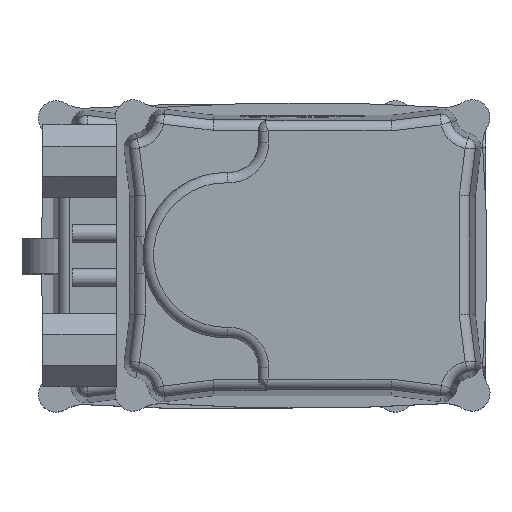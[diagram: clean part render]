
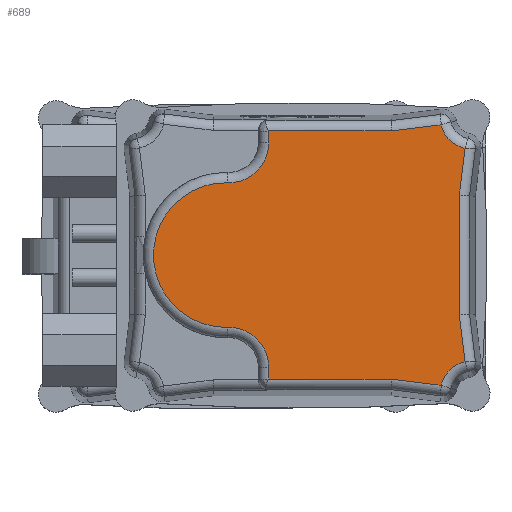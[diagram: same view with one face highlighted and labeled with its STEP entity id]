
A CAD part, top view. The second image highlights one B-rep face of the part: STEP entity #689.
In plain terms, the highlighted planar face has unit normal (0, 0, 1).
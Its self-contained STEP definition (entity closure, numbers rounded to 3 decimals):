
#689 = ADVANCED_FACE( '', ( #1888 ), #1889, .T. );
#1888 = FACE_OUTER_BOUND( '', #3788, .T. );
#1889 = PLANE( '', #3789 );
#3788 = EDGE_LOOP( '', ( #9677, #9678, #9679, #9680, #9681, #9682, #9683, #9684, #9685, #9686, #9687, #9688, #9689, #9690, #9691, #9692 ) );
#3789 = AXIS2_PLACEMENT_3D( '', #9693, #9694, #9695 );
#9677 = ORIENTED_EDGE( '', *, *, #15204, .T. );
#9678 = ORIENTED_EDGE( '', *, *, #15205, .T. );
#9679 = ORIENTED_EDGE( '', *, *, #15206, .T. );
#9680 = ORIENTED_EDGE( '', *, *, #15207, .T. );
#9681 = ORIENTED_EDGE( '', *, *, #15208, .T. );
#9682 = ORIENTED_EDGE( '', *, *, #15209, .T. );
#9683 = ORIENTED_EDGE( '', *, *, #15210, .T. );
#9684 = ORIENTED_EDGE( '', *, *, #15211, .T. );
#9685 = ORIENTED_EDGE( '', *, *, #15212, .T. );
#9686 = ORIENTED_EDGE( '', *, *, #15213, .T. );
#9687 = ORIENTED_EDGE( '', *, *, #15214, .T. );
#9688 = ORIENTED_EDGE( '', *, *, #15215, .T. );
#9689 = ORIENTED_EDGE( '', *, *, #15216, .T. );
#9690 = ORIENTED_EDGE( '', *, *, #15112, .T. );
#9691 = ORIENTED_EDGE( '', *, *, #15217, .T. );
#9692 = ORIENTED_EDGE( '', *, *, #15218, .T. );
#9693 = CARTESIAN_POINT( '', ( 47.227, -44.578, 84. ) );
#9694 = DIRECTION( '', ( 0., 0., 1. ) );
#9695 = DIRECTION( '', ( 1., 0., 0. ) );
#15112 = EDGE_CURVE( '', #17157, #17162, #17164, .T. );
#15204 = EDGE_CURVE( '', #17323, #17324, #17325, .T. );
#15205 = EDGE_CURVE( '', #17324, #17326, #17327, .T. );
#15206 = EDGE_CURVE( '', #17326, #17328, #17329, .F. );
#15207 = EDGE_CURVE( '', #17328, #17330, #17331, .T. );
#15208 = EDGE_CURVE( '', #17330, #17332, #17333, .T. );
#15209 = EDGE_CURVE( '', #17332, #17334, #17335, .T. );
#15210 = EDGE_CURVE( '', #17334, #17336, #17337, .T. );
#15211 = EDGE_CURVE( '', #17336, #17338, #17339, .F. );
#15212 = EDGE_CURVE( '', #17338, #17340, #17341, .T. );
#15213 = EDGE_CURVE( '', #17340, #17342, #17343, .F. );
#15214 = EDGE_CURVE( '', #17342, #17344, #17345, .T. );
#15215 = EDGE_CURVE( '', #17344, #17346, #17347, .T. );
#15216 = EDGE_CURVE( '', #17346, #17157, #17348, .T. );
#15217 = EDGE_CURVE( '', #17162, #17349, #17350, .F. );
#15218 = EDGE_CURVE( '', #17349, #17323, #17351, .T. );
#17157 = VERTEX_POINT( '', #20290 );
#17162 = VERTEX_POINT( '', #20296 );
#17164 = LINE( '', #20319, #20320 );
#17323 = VERTEX_POINT( '', #20758 );
#17324 = VERTEX_POINT( '', #20759 );
#17325 = LINE( '', #20760, #20761 );
#17326 = VERTEX_POINT( '', #20762 );
#17327 = LINE( '', #20763, #20764 );
#17328 = VERTEX_POINT( '', #20765 );
#17329 = CIRCLE( '', #20766, 10.907 );
#17330 = VERTEX_POINT( '', #20767 );
#17331 = LINE( '', #20768, #20769 );
#17332 = VERTEX_POINT( '', #20770 );
#17333 = LINE( '', #20771, #20772 );
#17334 = VERTEX_POINT( '', #20773 );
#17335 = CIRCLE( '', #20774, 0.5 );
#17336 = VERTEX_POINT( '', #20775 );
#17337 = LINE( '', #20776, #20777 );
#17338 = VERTEX_POINT( '', #20778 );
#17339 = CIRCLE( '', #20779, 13.5 );
#17340 = VERTEX_POINT( '', #20780 );
#17341 = CIRCLE( '', #20781, 24.5 );
#17342 = VERTEX_POINT( '', #20782 );
#17343 = CIRCLE( '', #20783, 13.5 );
#17344 = VERTEX_POINT( '', #20784 );
#17345 = LINE( '', #20785, #20786 );
#17346 = VERTEX_POINT( '', #20787 );
#17347 = CIRCLE( '', #20788, 0.5 );
#17348 = LINE( '', #20789, #20790 );
#17349 = VERTEX_POINT( '', #20791 );
#17350 = CIRCLE( '', #20792, 10.907 );
#17351 = LINE( '', #20793, #20794 );
#20290 = CARTESIAN_POINT( '', ( -30.331, 42.093, 84. ) );
#20296 = CARTESIAN_POINT( '', ( -46.913, 44.129, 84. ) );
#20319 = CARTESIAN_POINT( '', ( 56.559, 31.425, 84. ) );
#20320 = VECTOR( '', #28103, 1000. );
#20758 = CARTESIAN_POINT( '', ( -53.093, 20.331, 84. ) );
#20759 = CARTESIAN_POINT( '', ( -53.093, -20.331, 84. ) );
#20760 = CARTESIAN_POINT( '', ( -53.093, -44.578, 84. ) );
#20761 = VECTOR( '', #28178, 1000. );
#20762 = CARTESIAN_POINT( '', ( -55.033, -36.126, 84. ) );
#20763 = CARTESIAN_POINT( '', ( -54.536, -32.083, 84. ) );
#20764 = VECTOR( '', #28179, 1000. );
#20765 = CARTESIAN_POINT( '', ( -46.913, -44.129, 84. ) );
#20766 = AXIS2_PLACEMENT_3D( '', #28180, #28181, #28182 );
#20767 = CARTESIAN_POINT( '', ( -30.331, -42.093, 84. ) );
#20768 = CARTESIAN_POINT( '', ( 45.775, -32.749, 84. ) );
#20769 = VECTOR( '', #28183, 1000. );
#20770 = CARTESIAN_POINT( '', ( 11.491, -42.093, 84. ) );
#20771 = CARTESIAN_POINT( '', ( 47.227, -42.093, 84. ) );
#20772 = VECTOR( '', #28184, 1000. );
#20773 = CARTESIAN_POINT( '', ( 11.5, -42., 84. ) );
#20774 = AXIS2_PLACEMENT_3D( '', #28185, #28186, #28187 );
#20775 = CARTESIAN_POINT( '', ( 11.5, -37.987, 84. ) );
#20776 = CARTESIAN_POINT( '', ( 11.5, -44.578, 84. ) );
#20777 = VECTOR( '', #28188, 1000. );
#20778 = CARTESIAN_POINT( '', ( 25.355, -24.492, 84. ) );
#20779 = AXIS2_PLACEMENT_3D( '', #28189, #28190, #28191 );
#20780 = CARTESIAN_POINT( '', ( 25.355, 24.492, 84. ) );
#20781 = AXIS2_PLACEMENT_3D( '', #28192, #28193, #28194 );
#20782 = CARTESIAN_POINT( '', ( 11.5, 37.987, 84. ) );
#20783 = AXIS2_PLACEMENT_3D( '', #28195, #28196, #28197 );
#20784 = CARTESIAN_POINT( '', ( 11.5, 42., 84. ) );
#20785 = CARTESIAN_POINT( '', ( 11.5, -44.578, 84. ) );
#20786 = VECTOR( '', #28198, 1000. );
#20787 = CARTESIAN_POINT( '', ( 11.491, 42.093, 84. ) );
#20788 = AXIS2_PLACEMENT_3D( '', #28199, #28200, #28201 );
#20789 = CARTESIAN_POINT( '', ( 47.227, 42.093, 84. ) );
#20790 = VECTOR( '', #28202, 1000. );
#20791 = CARTESIAN_POINT( '', ( -55.033, 36.126, 84. ) );
#20792 = AXIS2_PLACEMENT_3D( '', #28203, #28204, #28205 );
#20793 = CARTESIAN_POINT( '', ( -43.752, -55.749, 84. ) );
#20794 = VECTOR( '', #28206, 1000. );
#28103 = DIRECTION( '', ( -0.993, 0.122, 0. ) );
#28178 = DIRECTION( '', ( 0., -1., 0. ) );
#28179 = DIRECTION( '', ( -0.122, -0.993, 0. ) );
#28180 = CARTESIAN_POINT( '', ( -57.5, -46.75, 84. ) );
#28181 = DIRECTION( '', ( 0., 0., 1. ) );
#28182 = DIRECTION( '', ( 1., 0., 0. ) );
#28183 = DIRECTION( '', ( 0.993, 0.122, 0. ) );
#28184 = DIRECTION( '', ( 1., 0., 0. ) );
#28185 = CARTESIAN_POINT( '', ( 11., -42., 84. ) );
#28186 = DIRECTION( '', ( 0., 0., 1. ) );
#28187 = DIRECTION( '', ( 1., 0., 0. ) );
#28188 = DIRECTION( '', ( 0., 1., 0. ) );
#28189 = CARTESIAN_POINT( '', ( 25., -37.987, 84. ) );
#28190 = DIRECTION( '', ( 0., 0., 1. ) );
#28191 = DIRECTION( '', ( 1., 0., 0. ) );
#28192 = CARTESIAN_POINT( '', ( 26., 0., 84. ) );
#28193 = DIRECTION( '', ( 0., 0., 1. ) );
#28194 = DIRECTION( '', ( 1., 0., 0. ) );
#28195 = CARTESIAN_POINT( '', ( 25., 37.987, 84. ) );
#28196 = DIRECTION( '', ( 0., 0., 1. ) );
#28197 = DIRECTION( '', ( 1., 0., 0. ) );
#28198 = DIRECTION( '', ( 0., 1., 0. ) );
#28199 = CARTESIAN_POINT( '', ( 11., 42., 84. ) );
#28200 = DIRECTION( '', ( 0., 0., 1. ) );
#28201 = DIRECTION( '', ( 1., 0., 0. ) );
#28202 = DIRECTION( '', ( -1., 0., 0. ) );
#28203 = CARTESIAN_POINT( '', ( -57.5, 46.75, 84. ) );
#28204 = DIRECTION( '', ( 0., 0., 1. ) );
#28205 = DIRECTION( '', ( 1., 0., 0. ) );
#28206 = DIRECTION( '', ( 0.122, -0.993, 0. ) );
